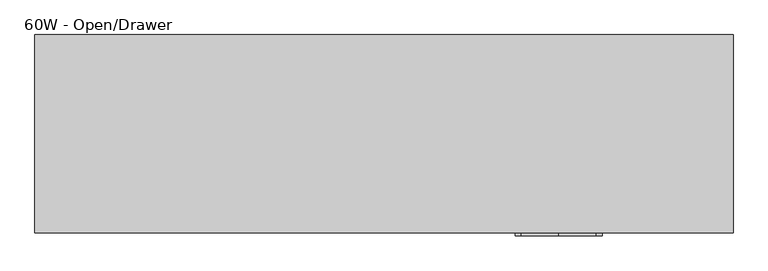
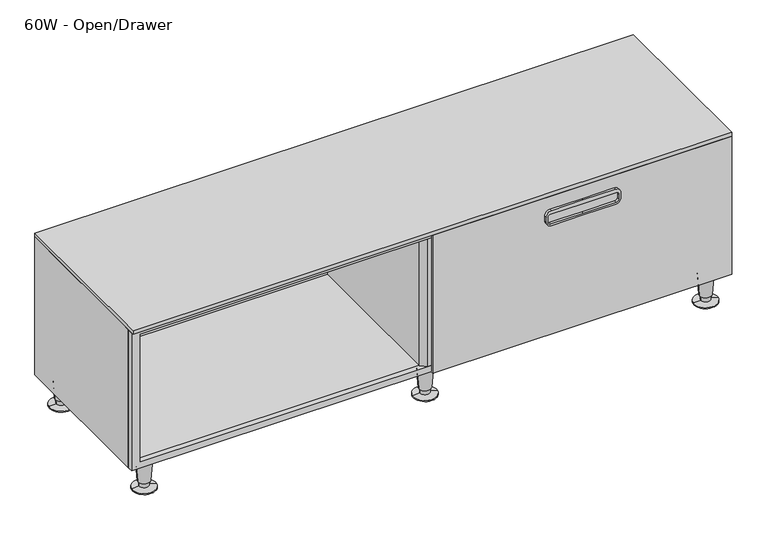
"""IFC4 building model written with IfcOpenShell, lengths in millimetres: furniture geometry, Steelcase - C Scape - Low Storage - 1 High - 60W and 72W : 60W - Open/Drawer."""

import ifcopenshell
import ifcopenshell.guid

model = None  # the IFC model being written
_history = None  # IfcOwnerHistory: only IFC2X3 demands one
_inside = {}  # id of a spatial element -> (the spatial element, [elements in it])
_under = {}  # id of a project, library or spatial element -> (it, [spatial elements below it])
_declared = {}  # id of a project -> (the project, [libraries it declares])
_typed = {}  # id of a type object -> (the type object, [elements of that type])
_made_of = {}  # id of a material, layer set ... -> (it, [elements and type objects made of it])


def new_model(schema):
    """Start an empty IFC model of exactly this schema.

    Asked for "IFC4X3", IfcOpenShell would pick the latest addendum, in which some entities
    have other attributes; the version numbers below select the first issue.
    IFC2X3 requires an IfcOwnerHistory on every rooted entity: one is made here for all.
    """
    global model, _history
    if schema == "IFC4X3":
        model = ifcopenshell.file(schema_version=(4, 3, 0, 0))
    else:
        model = ifcopenshell.file(schema=schema)
    _inside.clear()
    _under.clear()
    _declared.clear()
    _typed.clear()
    _made_of.clear()
    _history = None
    if model.schema == "IFC2X3":
        org = make("IfcOrganization", Name="unknown")
        user = make(
            "IfcPersonAndOrganization",
            ThePerson=make("IfcPerson", FamilyName="unknown"),
            TheOrganization=org,
        )
        app = make(
            "IfcApplication",
            ApplicationDeveloper=org,
            Version="unknown",
            ApplicationFullName="unknown",
            ApplicationIdentifier="unknown",
        )
        _history = make(
            "IfcOwnerHistory",
            OwningUser=user,
            OwningApplication=app,
            ChangeAction="ADDED",
            CreationDate=0,
        )
    return model


def make(cls, **values):
    """One entity of the class cls with the attributes given. An attribute that is None is left unset."""
    return model.create_entity(
        cls, **{name: value for name, value in values.items() if value is not None}
    )


def rooted(cls, **values):
    """An entity with a GlobalId (a new one), such as an element, a storey or a relation."""
    return make(cls, GlobalId=ifcopenshell.guid.new(), OwnerHistory=_history, **values)


def si_unit(unit_type, name, prefix=None):
    """IfcSIUnit, for example si_unit("LENGTHUNIT", "METRE", prefix="MILLI")."""
    return make("IfcSIUnit", UnitType=unit_type, Prefix=prefix, Name=name)


def assignment(units):
    """IfcUnitAssignment: the units of a project."""
    return None if units is None else make("IfcUnitAssignment", Units=units)


def point(xyz):
    """IfcCartesianPoint."""
    return None if xyz is None else make("IfcCartesianPoint", Coordinates=xyz)


def direction(xyz):
    """IfcDirection."""
    return None if xyz is None else make("IfcDirection", DirectionRatios=xyz)


def frame(location, z_axis=None, x_axis=None):
    """IfcAxis2Placement3D, a coordinate frame: its origin and axes. An axis left out is left unset."""
    return make(
        "IfcAxis2Placement3D",
        Location=point(location),
        Axis=direction(z_axis),
        RefDirection=direction(x_axis),
    )


def frame_2d(location, x_axis=None):
    """IfcAxis2Placement2D, a coordinate frame in the plane: its origin and x axis."""
    return make(
        "IfcAxis2Placement2D", Location=point(location), RefDirection=direction(x_axis)
    )


def origin():
    """The frame at (0, 0, 0) with its axes left unset."""
    return frame((0.0, 0.0, 0.0))


def place(relative_to, where):
    """IfcLocalPlacement: puts the frame where relative to a parent placement (None: the world)."""
    return make(
        "IfcLocalPlacement", PlacementRelTo=relative_to, RelativePlacement=where
    )


def context(
    kind, dimensions, precision=None, world=None, true_north=None, identifier=None
):
    """IfcGeometricRepresentationContext, for example the 3D "Model" context."""
    return make(
        "IfcGeometricRepresentationContext",
        ContextIdentifier=identifier,
        ContextType=kind,
        CoordinateSpaceDimension=dimensions,
        Precision=precision,
        WorldCoordinateSystem=world,
        TrueNorth=true_north,
    )


def project(units=None, contexts=None):
    """IfcProject with its units and contexts."""
    return rooted(
        "IfcProject",
        Name="project",
        RepresentationContexts=contexts,
        UnitsInContext=assignment(units),
    )


def spatial(cls, under=None, at=None, **own):
    """A site, building, storey or space (cls), placed at a placement, below another one or the project."""
    s = rooted(cls, ObjectPlacement=at, **own)
    if under is not None:
        _under.setdefault(under.id(), (under, []))[1].append(s)
    return s


def polyline(points):
    """IfcPolyline through the points."""
    return make("IfcPolyline", Points=[point(p) for p in points])


def circle_curve(where, radius):
    """IfcCircle in the frame where."""
    return make("IfcCircle", Position=where, Radius=radius)


def trimmed(basis, trim1, trim2, sense, master):
    """IfcTrimmedCurve: the piece of a basis curve between two trims."""
    return make(
        "IfcTrimmedCurve",
        BasisCurve=basis,
        Trim1=trim1,
        Trim2=trim2,
        SenseAgreement=sense,
        MasterRepresentation=master,
    )


def segment(curve, same_sense, transition):
    """IfcCompositeCurveSegment."""
    return make(
        "IfcCompositeCurveSegment",
        Transition=transition,
        SameSense=same_sense,
        ParentCurve=curve,
    )


def composite_curve(segments, self_intersect=None):
    """IfcCompositeCurve: segments joined end to end."""
    return make("IfcCompositeCurve", Segments=segments, SelfIntersect=self_intersect)


def outline(outer, holes=None, kind="AREA"):
    """IfcArbitraryClosedProfileDef: a profile drawn as a closed curve; with holes, ...WithVoids."""
    if holes is None:
        return make("IfcArbitraryClosedProfileDef", ProfileType=kind, OuterCurve=outer)
    return make(
        "IfcArbitraryProfileDefWithVoids",
        ProfileType=kind,
        OuterCurve=outer,
        InnerCurves=holes,
    )


def extrude(swept, where, along, depth):
    """IfcExtrudedAreaSolid: the profile swept, set in the frame where, extruded along a direction by depth."""
    return make(
        "IfcExtrudedAreaSolid",
        SweptArea=swept,
        Position=where,
        ExtrudedDirection=direction(along),
        Depth=depth,
    )


def faces_of(points, faces, orient=None, outer=None):
    """IfcFace entities. A face is a list of loops; a loop is a list of indices into points, from 0.

    orient and outer hold one flag for each loop. By default every Orientation is true, the
    first loop of a face is its IfcFaceOuterBound and the others are IfcFaceBound.
    """
    made = []
    for i, loops in enumerate(faces):
        bounds = []
        for j, loop in enumerate(loops):
            is_outer = j == 0 if outer is None else outer[i][j]
            bounds.append(
                make(
                    "IfcFaceOuterBound" if is_outer else "IfcFaceBound",
                    Bound=make("IfcPolyLoop", Polygon=[points[k] for k in loop]),
                    Orientation=True if orient is None else orient[i][j],
                )
            )
        made.append(make("IfcFace", Bounds=bounds))
    return made


def faceted_brep(points, faces, orient=None, outer=None, voids=None):
    """IfcFacetedBrep: a solid bounded by flat faces; with voids (closed shells), ...WithVoids."""
    shared = [point(p) for p in points]
    hull = make("IfcClosedShell", CfsFaces=faces_of(shared, faces, orient, outer))
    if voids is None:
        return make("IfcFacetedBrep", Outer=hull)
    return make(
        "IfcFacetedBrepWithVoids",
        Outer=hull,
        Voids=[
            make(cls, CfsFaces=faces_of(shared, fs, o, b)) for cls, fs, o, b in voids
        ],
    )


def shape(context_of_items, identifier, shape_type, items):
    """IfcShapeRepresentation: the items that make up one representation, for example the "Body"."""
    return make(
        "IfcShapeRepresentation",
        ContextOfItems=context_of_items,
        RepresentationIdentifier=identifier,
        RepresentationType=shape_type,
        Items=items,
    )


def source(mapping_origin, context_of_items, identifier, shape_type, items):
    """IfcRepresentationMap: a shape defined once, which mapped items show again and again."""
    return make(
        "IfcRepresentationMap",
        MappingOrigin=mapping_origin,
        MappedRepresentation=shape(context_of_items, identifier, shape_type, items),
    )


def transform(
    local_origin,
    x_axis=None,
    y_axis=None,
    z_axis=None,
    scale=None,
    scale2=None,
    scale3=None,
    uniform=True,
):
    """IfcCartesianTransformationOperator3D, or its non-uniform kind. x_axis, y_axis, z_axis: its Axis1, 2, 3."""
    if uniform:
        return make(
            "IfcCartesianTransformationOperator3D",
            Axis1=direction(x_axis),
            Axis2=direction(y_axis),
            LocalOrigin=point(local_origin),
            Scale=scale,
            Axis3=direction(z_axis),
        )
    return make(
        "IfcCartesianTransformationOperator3DnonUniform",
        Axis1=direction(x_axis),
        Axis2=direction(y_axis),
        LocalOrigin=point(local_origin),
        Scale=scale,
        Axis3=direction(z_axis),
        Scale2=scale2,
        Scale3=scale3,
    )


def mapped(mapping_source, mapping_target):
    """IfcMappedItem: shows the shape of a source again, moved by a transform."""
    return make(
        "IfcMappedItem", MappingSource=mapping_source, MappingTarget=mapping_target
    )


def made_of(thing, what):
    """Note that an element or type object is made of a material, layer set ...; save() writes the relation."""
    if what is not None:
        _made_of.setdefault(what.id(), (what, []))[1].append(thing)
    return thing


def element(
    cls,
    number,
    at=None,
    inside=None,
    cuts=None,
    type_object=None,
    material=None,
    context=None,
    identifier="Body",
    shape_type=None,
    held_by="IfcProductDefinitionShape",
    body=None,
    shapes=None,
    **own,
):
    """One element of the class cls, such as IfcWall. Its Tag is "e" and its number.

    at: its placement. inside: the storey or other place that contains it. cuts: it is an
    opening in that element (IfcRelVoidsElement). A single representation is given by context,
    identifier, shape_type and body (its items); several are given by shapes. held_by: the class
    of the entity that holds the representations. save() writes the other relations.
    """
    e = rooted(cls, Tag="e%d" % number, ObjectPlacement=at, **own)
    if body is not None:
        shapes = [shape(context, identifier, shape_type, body)]
    if shapes is not None:
        e.Representation = make(held_by, Representations=shapes)
    if inside is not None:
        _inside.setdefault(inside.id(), (inside, []))[1].append(e)
    if cuts is not None:
        rooted(
            "IfcRelVoidsElement", RelatingBuildingElement=cuts, RelatedOpeningElement=e
        )
    if type_object is not None:
        _typed.setdefault(type_object.id(), (type_object, []))[1].append(e)
    return made_of(e, material)


def aggregate(whole, parts):
    """IfcRelAggregates: a whole, such as a stair, and the parts it consists of."""
    return rooted("IfcRelAggregates", RelatingObject=whole, RelatedObjects=parts)


def save(model, path):
    """Write the relations noted so far, then the file.

    IfcRelAggregates (storeys below a building ...), IfcRelContainedInSpatialStructure (elements
    in a storey), IfcRelDefinesByType, IfcRelAssociatesMaterial and IfcRelDeclares: one each for
    every whole, place, type object, material and project.
    """
    for whole, parts in _under.values():
        aggregate(whole, parts)
    for where, things in _inside.values():
        rooted(
            "IfcRelContainedInSpatialStructure",
            RelatedElements=things,
            RelatingStructure=where,
        )
    for kind, things in _typed.values():
        rooted("IfcRelDefinesByType", RelatedObjects=things, RelatingType=kind)
    for what, things in _made_of.values():
        rooted("IfcRelAssociatesMaterial", RelatedObjects=things, RelatingMaterial=what)
    for by, libraries in _declared.values():
        rooted("IfcRelDeclares", RelatingContext=by, RelatedDefinitions=libraries)
    model.write(path)


def plane_surface(at):
    """IfcPlane: the flat surface through the origin of the frame at, square to its z axis."""
    return make("IfcPlane", Position=at)


def cylinder_surface(at, radius):
    """IfcCylindricalSurface: all points at the distance radius from the z axis of the frame at."""
    return make("IfcCylindricalSurface", Position=at, Radius=radius)


def revolved_surface(curve, axis_point, axis_direction):
    """IfcSurfaceOfRevolution: the curve turned about the line through axis_point along axis_direction."""
    return make(
        "IfcSurfaceOfRevolution",
        SweptCurve=make("IfcArbitraryOpenProfileDef", ProfileType="CURVE", Curve=curve),
        AxisPosition=make("IfcAxis1Placement", Location=point(axis_point), Axis=direction(axis_direction)),
    )


def advanced_brep(points, edges, surfaces, faces):
    """IfcAdvancedBrep: a solid bounded by faces that lie on surfaces and meet in shared edges.

    An edge is (start, end): straight between two places in points (the first is 0);
    or (start, end, curve); or (start, end, curve, False) where it runs against its curve.
    A face is (place in surfaces, loops), or (place, loops, False) where it looks against
    its surface's normal. A loop lists edges by number (the first is 1), with a minus sign
    where the edge is run from its end to its start. The first loop is the outer one.
    """
    corners = [point(p) for p in points]
    vertices = [make("IfcVertexPoint", VertexGeometry=c) for c in corners]
    made = []
    for start, end, *more in edges:
        made.append(
            make(
                "IfcEdgeCurve",
                EdgeStart=vertices[start],
                EdgeEnd=vertices[end],
                EdgeGeometry=more[0] if more else make("IfcPolyline", Points=[corners[start], corners[end]]),
                SameSense=more[1] if len(more) > 1 else True,
            )
        )
    hull = []
    for where, loops, *sense in faces:
        bounds = []
        for j, loop in enumerate(loops):
            ring = [make("IfcOrientedEdge", EdgeElement=made[abs(k) - 1], Orientation=k > 0) for k in loop]
            bounds.append(
                make(
                    "IfcFaceOuterBound" if j == 0 else "IfcFaceBound",
                    Bound=make("IfcEdgeLoop", EdgeList=ring),
                    Orientation=True,
                )
            )
        hull.append(make("IfcAdvancedFace", Bounds=bounds, FaceSurface=surfaces[where], SameSense=sense[0] if sense else True))
    return make("IfcAdvancedBrep", Outer=make("IfcClosedShell", CfsFaces=hull))


def furniture_60w_open_drawer_e08ea611(model_context):
    return source(origin(), model_context, "Body", "SolidModel", [
        extrude(outline(polyline([(447.0400097, 1217.93), (447.0400097, -305.435), (76.2, -305.435), (76.2, 1217.93), (447.0400097, 1217.93)]), holes=[polyline([(436.118, 1196.5917676), (92.7100024, 1196.5917676), (92.7100024, -283.4630912), (436.118, -283.4630912), (436.118, 1196.5917676)])]), frame((0.0, -426.7186111, 0.0), z_axis=(0.0, 1.0, 0.0), x_axis=(0.0, 0.0, 1.0)), (0.0, 0.0, 1.0), 14.3975487),
        faceted_brep([(-283.4630912, -412.3210624, 92.7100024), (434.0224874, -412.3210624, 92.7100024), (434.0224874, -9.525, 92.7100024), (-283.4630912, -9.525, 92.7100024), (479.1075126, -412.3210624, 92.7100024), (1196.5917676, -412.3210624, 92.7100024), (1196.5917676, -9.525, 92.7100024), (479.1075126, -9.525, 92.7100024), (-305.435, 0.0, 76.2), (1218.565, 0.0, 76.2), (1218.565, -412.3210624, 76.2), (-305.435, -412.3210624, 76.2), (-305.435, -412.3210624, 447.0400097), (-305.435, 0.0, 447.0400097), (1218.565, -412.3210624, 447.0400097), (1196.5917676, -412.3210624, 447.0400097), (-283.4630912, -412.3210624, 447.0400097), (1218.565, 0.0, 447.0400097), (-283.4630912, -9.525, 447.0400097), (434.0224874, -9.525, 447.0400097), (434.0224874, -415.2912402, 447.0400097), (447.6410976, -426.7186111, 447.0400097), (465.4889024, -426.7186111, 447.0400097), (479.1075126, -415.2912402, 447.0400097), (479.1075126, -9.525, 447.0400097), (1196.5917676, -9.525, 447.0400097), (434.0224874, -415.2912402, 92.7100024), (447.6410976, -426.7186111, 92.7100024), (465.4889024, -426.7186111, 92.7100024), (479.1075126, -415.2912402, 92.7100024)], [[[0, 1, 2, 3]], [[4, 5, 6, 7]], [[8, 9, 10, 11]], [[8, 11, 12, 13]], [[12, 11, 10, 14, 15, 5, 4, 1, 0, 16]], [[14, 10, 9, 17]], [[17, 9, 8, 13]], [[13, 12, 16, 18, 19, 20, 21, 22, 23, 24, 25, 15, 14, 17]], [[18, 16, 0, 3]], [[19, 18, 3, 2]], [[20, 19, 2, 1, 26]], [[21, 20, 26, 27]], [[23, 22, 28, 29]], [[24, 23, 29, 4, 7]], [[25, 24, 7, 6]], [[15, 25, 6, 5]], [[29, 28, 27, 26, 1, 4]], [[22, 21, 27, 28]]]),
        advanced_brep(
        [(427.4539515, -29.9489775, 0.0), (485.6760485, -38.8569507, 0.0), (456.565, -34.4029641, 0.0), (427.4539515, -29.9489775, 2.5119506), (485.6760485, -38.8569507, 2.5119506), (444.802835, -32.6033544, 5.7545598), (468.327165, -36.2025738, 5.7545598), (444.1140655, -32.4979728, 19.05), (469.0159345, -36.3079555, 19.05), (441.6844786, -32.1262463, 19.05), (471.4455214, -36.6796819, 19.05), (437.7341305, -31.5218435, 76.2), (475.3958695, -37.2840847, 76.2), (456.565, -34.4029641, 76.2)],
        [
            (0, 1, circle_curve(frame((456.565, -34.4029641, 0.0), z_axis=(0.0, 0.0, -1.0), x_axis=(0.0, -1.0, 0.0)), 29.4498071)),
            (1, 2),
            (2, 0),
            (1, 0, circle_curve(frame((456.565, -34.4029641, 0.0), z_axis=(0.0, 0.0, -1.0), x_axis=(0.0, -1.0, 0.0)), 29.4498071)),
            (3, 4, circle_curve(frame((456.565, -34.4029641, 2.5119506), z_axis=(0.0, 0.0, -1.0), x_axis=(0.0, -1.0, 0.0)), 29.4498071)),
            (4, 1),
            (0, 3),
            (4, 3, circle_curve(frame((456.565, -34.4029641, 2.5119506), z_axis=(0.0, 0.0, -1.0), x_axis=(0.0, -1.0, 0.0)), 29.4498071)),
            (5, 6, circle_curve(frame((456.565, -34.4029641, 5.7545598), z_axis=(0.0, 0.0, -1.0), x_axis=(0.0, -1.0, 0.0)), 11.8990387)),
            (6, 4),
            (3, 5),
            (6, 5, circle_curve(frame((456.565, -34.4029641, 5.7545598), z_axis=(0.0, 0.0, -1.0), x_axis=(0.0, -1.0, 0.0)), 11.8990387)),
            (7, 8, circle_curve(frame((456.565, -34.4029641, 19.05), z_axis=(0.0, 0.0, -1.0), x_axis=(0.0, -1.0, 0.0)), 12.5958232)),
            (8, 6),
            (5, 7),
            (8, 7, circle_curve(frame((456.565, -34.4029641, 19.05), z_axis=(0.0, 0.0, -1.0), x_axis=(0.0, -1.0, 0.0)), 12.5958232)),
            (9, 10, circle_curve(frame((456.565, -34.4029641, 19.05), z_axis=(0.0, 0.0, -1.0), x_axis=(0.0, -1.0, 0.0)), 15.0536827)),
            (10, 8),
            (7, 9),
            (10, 9, circle_curve(frame((456.565, -34.4029641, 19.05), z_axis=(0.0, 0.0, -1.0), x_axis=(0.0, -1.0, 0.0)), 15.0536827)),
            (11, 12, circle_curve(frame((456.565, -34.4029641, 76.2), z_axis=(0.0, 0.0, -1.0), x_axis=(0.0, -1.0, 0.0)), 19.05)),
            (12, 10),
            (9, 11),
            (12, 11, circle_curve(frame((456.565, -34.4029641, 76.2), z_axis=(0.0, 0.0, -1.0), x_axis=(0.0, -1.0, 0.0)), 19.05)),
            (13, 12),
            (11, 13),
        ],
        [
            plane_surface(frame((456.565, -34.4029641, 0.0), z_axis=(0.0, 0.0, -1.0), x_axis=(0.0, -1.0, 0.0))),
            cylinder_surface(frame((456.565, -34.4029641, 25.4), z_axis=(0.0, 0.0, 1.0), x_axis=(0.0, -1.0, 0.0)), 29.4498071),
            revolved_surface(polyline([(456.565, -63.8527712, 2.5119506), (456.565, -46.3020028, 5.7545598)]), (456.565, -34.4029641, 25.4), (0.0, 0.0, 1.0)),
            revolved_surface(polyline([(456.565, -46.3020028, 5.7545598), (456.565, -46.9987873, 19.05)]), (456.565, -34.4029641, 25.4), (0.0, 0.0, 1.0)),
            plane_surface(frame((456.565, -34.4029641, 19.05), z_axis=(0.0, 0.0, -1.0), x_axis=(0.0, -1.0, 0.0))),
            revolved_surface(polyline([(456.565, -49.4566468, 19.05), (456.565, -53.4529641, 76.2)]), (456.565, -34.4029641, 25.4), (0.0, 0.0, 1.0)),
            plane_surface(frame((456.565, -34.4029641, 76.2), z_axis=(0.0, 0.0, 1.0), x_axis=(0.0, -1.0, 0.0))),
        ],
        [
            (0, [[1, 2, 3]]),
            (0, [[4, -3, -2]]),
            (1, [[5, 6, -1, 7]]),
            (1, [[8, -7, -4, -6]]),
            (2, [[9, 10, -5, 11]]),
            (2, [[12, -11, -8, -10]]),
            (3, [[13, 14, -9, 15]]),
            (3, [[16, -15, -12, -14]]),
            (4, [[17, 18, -13, 19]]),
            (4, [[20, -19, -16, -18]]),
            (5, [[21, 22, -17, 23]]),
            (5, [[24, -23, -20, -22]]),
            (6, [[25, -21, 26]]),
            (6, [[-26, -24, -25]]),
        ],
    ),
        advanced_brep(
        [(427.4539515, -395.5974102, 0.0), (485.6760485, -404.5053834, 0.0), (456.565, -400.0513968, 0.0), (427.4539515, -395.5974102, 2.5119506), (485.6760485, -404.5053834, 2.5119506), (444.802835, -398.2517871, 5.7545598), (468.327165, -401.8510065, 5.7545598), (444.1140655, -398.1464055, 19.05), (469.0159345, -401.9563882, 19.05), (441.6844786, -397.774679, 19.05), (471.4455214, -402.3281146, 19.05), (437.7341305, -397.1702762, 76.2), (475.3958695, -402.9325174, 76.2), (456.565, -400.0513968, 76.2)],
        [
            (0, 1, circle_curve(frame((456.565, -400.0513968, 0.0), z_axis=(0.0, 0.0, -1.0), x_axis=(0.0, -1.0, 0.0)), 29.4498071)),
            (1, 2),
            (2, 0),
            (1, 0, circle_curve(frame((456.565, -400.0513968, 0.0), z_axis=(0.0, 0.0, -1.0), x_axis=(0.0, -1.0, 0.0)), 29.4498071)),
            (3, 4, circle_curve(frame((456.565, -400.0513968, 2.5119506), z_axis=(0.0, 0.0, -1.0), x_axis=(0.0, -1.0, 0.0)), 29.4498071)),
            (4, 1),
            (0, 3),
            (4, 3, circle_curve(frame((456.565, -400.0513968, 2.5119506), z_axis=(0.0, 0.0, -1.0), x_axis=(0.0, -1.0, 0.0)), 29.4498071)),
            (5, 6, circle_curve(frame((456.565, -400.0513968, 5.7545598), z_axis=(0.0, 0.0, -1.0), x_axis=(0.0, -1.0, 0.0)), 11.8990387)),
            (6, 4),
            (3, 5),
            (6, 5, circle_curve(frame((456.565, -400.0513968, 5.7545598), z_axis=(0.0, 0.0, -1.0), x_axis=(0.0, -1.0, 0.0)), 11.8990387)),
            (7, 8, circle_curve(frame((456.565, -400.0513968, 19.05), z_axis=(0.0, 0.0, -1.0), x_axis=(0.0, -1.0, 0.0)), 12.5958232)),
            (8, 6),
            (5, 7),
            (8, 7, circle_curve(frame((456.565, -400.0513968, 19.05), z_axis=(0.0, 0.0, -1.0), x_axis=(0.0, -1.0, 0.0)), 12.5958232)),
            (9, 10, circle_curve(frame((456.565, -400.0513968, 19.05), z_axis=(0.0, 0.0, -1.0), x_axis=(0.0, -1.0, 0.0)), 15.0536827)),
            (10, 8),
            (7, 9),
            (10, 9, circle_curve(frame((456.565, -400.0513968, 19.05), z_axis=(0.0, 0.0, -1.0), x_axis=(0.0, -1.0, 0.0)), 15.0536827)),
            (11, 12, circle_curve(frame((456.565, -400.0513968, 76.2), z_axis=(0.0, 0.0, -1.0), x_axis=(0.0, -1.0, 0.0)), 19.05)),
            (12, 10),
            (9, 11),
            (12, 11, circle_curve(frame((456.565, -400.0513968, 76.2), z_axis=(0.0, 0.0, -1.0), x_axis=(0.0, -1.0, 0.0)), 19.05)),
            (13, 12),
            (11, 13),
        ],
        [
            plane_surface(frame((456.565, -400.0513968, 0.0), z_axis=(0.0, 0.0, -1.0), x_axis=(0.0, -1.0, 0.0))),
            cylinder_surface(frame((456.565, -400.0513968, 25.4), z_axis=(0.0, 0.0, 1.0), x_axis=(0.0, -1.0, 0.0)), 29.4498071),
            revolved_surface(polyline([(456.565, -429.5012039, 2.5119506), (456.565, -411.9504355, 5.7545598)]), (456.565, -400.0513968, 25.4), (0.0, 0.0, 1.0)),
            revolved_surface(polyline([(456.565, -411.9504355, 5.7545598), (456.565, -412.64722, 19.05)]), (456.565, -400.0513968, 25.4), (0.0, 0.0, 1.0)),
            plane_surface(frame((456.565, -400.0513968, 19.05), z_axis=(0.0, 0.0, -1.0), x_axis=(0.0, -1.0, 0.0))),
            revolved_surface(polyline([(456.565, -415.1050795, 19.05), (456.565, -419.1013968, 76.2)]), (456.565, -400.0513968, 25.4), (0.0, 0.0, 1.0)),
            plane_surface(frame((456.565, -400.0513968, 76.2), z_axis=(0.0, 0.0, 1.0), x_axis=(0.0, -1.0, 0.0))),
        ],
        [
            (0, [[1, 2, 3]]),
            (0, [[4, -3, -2]]),
            (1, [[5, 6, -1, 7]]),
            (1, [[8, -7, -4, -6]]),
            (2, [[9, 10, -5, 11]]),
            (2, [[12, -11, -8, -10]]),
            (3, [[13, 14, -9, 15]]),
            (3, [[16, -15, -12, -14]]),
            (4, [[17, 18, -13, 19]]),
            (4, [[20, -19, -16, -18]]),
            (5, [[21, 22, -17, 23]]),
            (5, [[24, -23, -20, -22]]),
            (6, [[25, -21, 26]]),
            (6, [[-26, -24, -25]]),
        ],
    ),
        extrude(outline(composite_curve([segment(trimmed(circle_curve(frame_2d((400.0499879, 755.3320892)), 12.7), [point((412.7499879, 755.3320892))], [point((400.0499879, 742.6320892))], False, "CARTESIAN"), True, "CONTINUOUS"), segment(polyline([(400.0499879, 742.6320892), (385.445017, 742.6320892)]), True, "CONTINUOUS"), segment(trimmed(circle_curve(frame_2d((385.445017, 755.3320892)), 12.7), [point((385.445017, 742.6320892))], [point((372.745017, 755.3320892))], False, "CARTESIAN"), True, "CONTINUOUS"), segment(polyline([(372.745017, 755.3320892), (372.745017, 837.564845), (372.745017, 919.7976007)]), True, "CONTINUOUS"), segment(trimmed(circle_curve(frame_2d((385.445017, 919.7976007)), 12.7), [point((372.745017, 919.7976007))], [point((385.445017, 932.4976007))], False, "CARTESIAN"), True, "CONTINUOUS"), segment(polyline([(385.445017, 932.4976007), (400.0499879, 932.4976007)]), True, "CONTINUOUS"), segment(trimmed(circle_curve(frame_2d((400.0499879, 919.7976007)), 12.7), [point((400.0499879, 932.4976007))], [point((412.7499879, 919.7976007))], False, "CARTESIAN"), True, "CONTINUOUS"), segment(polyline([(412.7499879, 919.7976007), (412.7499879, 837.564845), (412.7499879, 755.3320892)]), True, "CONTINUOUS")], self_intersect=False), holes=[composite_curve([segment(trimmed(circle_curve(frame_2d((396.6210063, 753.8097015)), 6.35), [point((396.6210063, 747.4597015))], [point((402.9710063, 753.8097015))], True, "CARTESIAN"), True, "CONTINUOUS"), segment(polyline([(402.9710063, 753.8097015), (402.9710063, 837.564845), (402.9710063, 921.3199884)]), True, "CONTINUOUS"), segment(trimmed(circle_curve(frame_2d((396.6210063, 921.3199884)), 6.35), [point((402.9710063, 921.3199884))], [point((396.6210063, 927.6699884))], True, "CARTESIAN"), True, "CONTINUOUS"), segment(polyline([(396.6210063, 927.6699884), (383.9209942, 927.6699884)]), True, "CONTINUOUS"), segment(trimmed(circle_curve(frame_2d((383.9209942, 921.3199884)), 6.35), [point((383.9209942, 927.6699884))], [point((377.5709942, 921.3199884))], True, "CARTESIAN"), True, "CONTINUOUS"), segment(polyline([(377.5709942, 921.3199884), (377.5709942, 837.564845), (377.5709942, 753.8097015)]), True, "CONTINUOUS"), segment(trimmed(circle_curve(frame_2d((383.9209942, 753.8097015)), 6.35), [point((377.5709942, 753.8097015))], [point((383.9209942, 747.4597015))], True, "CARTESIAN"), True, "CONTINUOUS"), segment(polyline([(383.9209942, 747.4597015), (396.6210063, 747.4597015)]), True, "CONTINUOUS")], self_intersect=False)]), frame((0.0, -439.42, 0.0), z_axis=(0.0, 1.0, 0.0), x_axis=(0.0, 0.0, 1.0)), (0.0, 0.0, 1.0), 6.35),
        advanced_brep(
        [(1171.2185874, -34.4029641, 76.2), (1190.0494568, -37.2840847, 76.2), (1152.3877179, -31.5218435, 76.2), (1186.0991088, -36.6796819, 19.05), (1156.3380659, -32.1262463, 19.05), (1183.6695219, -36.3079555, 19.05), (1158.7676529, -32.4979728, 19.05), (1182.9807524, -36.2025738, 5.7545598), (1159.4564224, -32.6033544, 5.7545598), (1200.3296359, -38.8569507, 2.5119506), (1142.1075389, -29.9489775, 2.5119506), (1200.3296359, -38.8569507, 0.0), (1142.1075389, -29.9489775, 0.0), (1171.2185874, -34.4029641, 0.0)],
        [
            (0, 1),
            (1, 2, circle_curve(frame((1171.2185874, -34.4029641, 76.2), z_axis=(0.0, 0.0, 1.0), x_axis=(0.0, -1.0, 0.0)), 19.05)),
            (2, 0),
            (2, 1, circle_curve(frame((1171.2185874, -34.4029641, 76.2), z_axis=(0.0, 0.0, 1.0), x_axis=(0.0, -1.0, 0.0)), 19.05)),
            (1, 3),
            (3, 4, circle_curve(frame((1171.2185874, -34.4029641, 19.05), z_axis=(0.0, 0.0, 1.0), x_axis=(0.0, -1.0, 0.0)), 15.0536827)),
            (4, 2),
            (4, 3, circle_curve(frame((1171.2185874, -34.4029641, 19.05), z_axis=(0.0, 0.0, 1.0), x_axis=(0.0, -1.0, 0.0)), 15.0536827)),
            (3, 5),
            (5, 6, circle_curve(frame((1171.2185874, -34.4029641, 19.05), z_axis=(0.0, 0.0, 1.0), x_axis=(0.0, -1.0, 0.0)), 12.5958232)),
            (6, 4),
            (6, 5, circle_curve(frame((1171.2185874, -34.4029641, 19.05), z_axis=(0.0, 0.0, 1.0), x_axis=(0.0, -1.0, 0.0)), 12.5958232)),
            (5, 7),
            (7, 8, circle_curve(frame((1171.2185874, -34.4029641, 5.7545598), z_axis=(0.0, 0.0, 1.0), x_axis=(0.0, -1.0, 0.0)), 11.8990387)),
            (8, 6),
            (8, 7, circle_curve(frame((1171.2185874, -34.4029641, 5.7545598), z_axis=(0.0, 0.0, 1.0), x_axis=(0.0, -1.0, 0.0)), 11.8990387)),
            (7, 9),
            (9, 10, circle_curve(frame((1171.2185874, -34.4029641, 2.5119506), z_axis=(0.0, 0.0, 1.0), x_axis=(0.0, -1.0, 0.0)), 29.4498071)),
            (10, 8),
            (10, 9, circle_curve(frame((1171.2185874, -34.4029641, 2.5119506), z_axis=(0.0, 0.0, 1.0), x_axis=(0.0, -1.0, 0.0)), 29.4498071)),
            (9, 11),
            (11, 12, circle_curve(frame((1171.2185874, -34.4029641, 0.0), z_axis=(0.0, 0.0, 1.0), x_axis=(0.0, -1.0, 0.0)), 29.4498071)),
            (12, 10),
            (12, 11, circle_curve(frame((1171.2185874, -34.4029641, 0.0), z_axis=(0.0, 0.0, 1.0), x_axis=(0.0, -1.0, 0.0)), 29.4498071)),
            (11, 13),
            (13, 12),
        ],
        [
            plane_surface(frame((1171.2185874, -34.4029641, 76.2), z_axis=(0.0, 0.0, 1.0), x_axis=(0.0, -1.0, 0.0))),
            revolved_surface(polyline([(1171.2185874, -49.4566468, 19.05), (1171.2185874, -53.4529641, 76.2)]), (1171.2185874, -34.4029641, 25.4), (0.0, 0.0, 1.0)),
            plane_surface(frame((1171.2185874, -34.4029641, 19.05), z_axis=(0.0, 0.0, -1.0), x_axis=(0.0, -1.0, 0.0))),
            revolved_surface(polyline([(1171.2185874, -46.3020028, 5.7545598), (1171.2185874, -46.9987873, 19.05)]), (1171.2185874, -34.4029641, 25.4), (0.0, 0.0, 1.0)),
            revolved_surface(polyline([(1171.2185874, -63.8527712, 2.5119506), (1171.2185874, -46.3020028, 5.7545598)]), (1171.2185874, -34.4029641, 25.4), (0.0, 0.0, 1.0)),
            cylinder_surface(frame((1171.2185874, -34.4029641, 25.4), z_axis=(0.0, 0.0, 1.0), x_axis=(0.0, -1.0, 0.0)), 29.4498071),
            plane_surface(frame((1171.2185874, -34.4029641, 0.0), z_axis=(0.0, 0.0, -1.0), x_axis=(0.0, -1.0, 0.0))),
        ],
        [
            (0, [[1, 2, 3]]),
            (0, [[-3, 4, -1]]),
            (1, [[-2, 5, 6, 7]]),
            (1, [[-4, -7, 8, -5]]),
            (2, [[-6, 9, 10, 11]]),
            (2, [[-8, -11, 12, -9]]),
            (3, [[-10, 13, 14, 15]]),
            (3, [[-12, -15, 16, -13]]),
            (4, [[-14, 17, 18, 19]]),
            (4, [[-16, -19, 20, -17]]),
            (5, [[-18, 21, 22, 23]]),
            (5, [[-20, -23, 24, -21]]),
            (6, [[-22, 25, 26]]),
            (6, [[-24, -26, -25]]),
        ],
    ),
        advanced_brep(
        [(1171.2185874, -400.0513968, 76.2), (1190.0494568, -402.9325174, 76.2), (1152.3877179, -397.1702762, 76.2), (1186.0991088, -402.3281146, 19.05), (1156.3380659, -397.774679, 19.05), (1183.6695219, -401.9563882, 19.05), (1158.7676529, -398.1464055, 19.05), (1182.9807524, -401.8510065, 5.7545598), (1159.4564224, -398.2517871, 5.7545598), (1200.3296359, -404.5053834, 2.5119506), (1142.1075389, -395.5974102, 2.5119506), (1200.3296359, -404.5053834, 0.0), (1142.1075389, -395.5974102, 0.0), (1171.2185874, -400.0513968, 0.0)],
        [
            (0, 1),
            (1, 2, circle_curve(frame((1171.2185874, -400.0513968, 76.2), z_axis=(0.0, 0.0, 1.0), x_axis=(0.0, -1.0, 0.0)), 19.05)),
            (2, 0),
            (2, 1, circle_curve(frame((1171.2185874, -400.0513968, 76.2), z_axis=(0.0, 0.0, 1.0), x_axis=(0.0, -1.0, 0.0)), 19.05)),
            (1, 3),
            (3, 4, circle_curve(frame((1171.2185874, -400.0513968, 19.05), z_axis=(0.0, 0.0, 1.0), x_axis=(0.0, -1.0, 0.0)), 15.0536827)),
            (4, 2),
            (4, 3, circle_curve(frame((1171.2185874, -400.0513968, 19.05), z_axis=(0.0, 0.0, 1.0), x_axis=(0.0, -1.0, 0.0)), 15.0536827)),
            (3, 5),
            (5, 6, circle_curve(frame((1171.2185874, -400.0513968, 19.05), z_axis=(0.0, 0.0, 1.0), x_axis=(0.0, -1.0, 0.0)), 12.5958232)),
            (6, 4),
            (6, 5, circle_curve(frame((1171.2185874, -400.0513968, 19.05), z_axis=(0.0, 0.0, 1.0), x_axis=(0.0, -1.0, 0.0)), 12.5958232)),
            (5, 7),
            (7, 8, circle_curve(frame((1171.2185874, -400.0513968, 5.7545598), z_axis=(0.0, 0.0, 1.0), x_axis=(0.0, -1.0, 0.0)), 11.8990387)),
            (8, 6),
            (8, 7, circle_curve(frame((1171.2185874, -400.0513968, 5.7545598), z_axis=(0.0, 0.0, 1.0), x_axis=(0.0, -1.0, 0.0)), 11.8990387)),
            (7, 9),
            (9, 10, circle_curve(frame((1171.2185874, -400.0513968, 2.5119506), z_axis=(0.0, 0.0, 1.0), x_axis=(0.0, -1.0, 0.0)), 29.4498071)),
            (10, 8),
            (10, 9, circle_curve(frame((1171.2185874, -400.0513968, 2.5119506), z_axis=(0.0, 0.0, 1.0), x_axis=(0.0, -1.0, 0.0)), 29.4498071)),
            (9, 11),
            (11, 12, circle_curve(frame((1171.2185874, -400.0513968, 0.0), z_axis=(0.0, 0.0, 1.0), x_axis=(0.0, -1.0, 0.0)), 29.4498071)),
            (12, 10),
            (12, 11, circle_curve(frame((1171.2185874, -400.0513968, 0.0), z_axis=(0.0, 0.0, 1.0), x_axis=(0.0, -1.0, 0.0)), 29.4498071)),
            (11, 13),
            (13, 12),
        ],
        [
            plane_surface(frame((1171.2185874, -400.0513968, 76.2), z_axis=(0.0, 0.0, 1.0), x_axis=(0.0, -1.0, 0.0))),
            revolved_surface(polyline([(1171.2185874, -415.1050795, 19.05), (1171.2185874, -419.1013968, 76.2)]), (1171.2185874, -400.0513968, 25.4), (0.0, 0.0, 1.0)),
            plane_surface(frame((1171.2185874, -400.0513968, 19.05), z_axis=(0.0, 0.0, -1.0), x_axis=(0.0, -1.0, 0.0))),
            revolved_surface(polyline([(1171.2185874, -411.9504355, 5.7545598), (1171.2185874, -412.64722, 19.05)]), (1171.2185874, -400.0513968, 25.4), (0.0, 0.0, 1.0)),
            revolved_surface(polyline([(1171.2185874, -429.5012039, 2.5119506), (1171.2185874, -411.9504355, 5.7545598)]), (1171.2185874, -400.0513968, 25.4), (0.0, 0.0, 1.0)),
            cylinder_surface(frame((1171.2185874, -400.0513968, 25.4), z_axis=(0.0, 0.0, 1.0), x_axis=(0.0, -1.0, 0.0)), 29.4498071),
            plane_surface(frame((1171.2185874, -400.0513968, 0.0), z_axis=(0.0, 0.0, -1.0), x_axis=(0.0, -1.0, 0.0))),
        ],
        [
            (0, [[1, 2, 3]]),
            (0, [[-3, 4, -1]]),
            (1, [[-2, 5, 6, 7]]),
            (1, [[-4, -7, 8, -5]]),
            (2, [[-6, 9, 10, 11]]),
            (2, [[-8, -11, 12, -9]]),
            (3, [[-10, 13, 14, 15]]),
            (3, [[-12, -15, 16, -13]]),
            (4, [[-14, 17, 18, 19]]),
            (4, [[-16, -19, 20, -17]]),
            (5, [[-18, 21, 22, 23]]),
            (5, [[-20, -23, 24, -21]]),
            (6, [[-22, 25, 26]]),
            (6, [[-24, -26, -25]]),
        ],
    ),
        advanced_brep(
        [(-287.8113721, -395.5974102, 0.0), (-229.5892752, -404.5053834, 0.0), (-258.7003237, -400.0513968, 0.0), (-287.8113721, -395.5974102, 2.5119506), (-229.5892752, -404.5053834, 2.5119506), (-270.4624887, -398.2517871, 5.7545598), (-246.9381586, -401.8510065, 5.7545598), (-271.1512581, -398.1464055, 19.05), (-246.2493892, -401.9563882, 19.05), (-273.5808451, -397.774679, 19.05), (-243.8198022, -402.3281146, 19.05), (-277.5311931, -397.1702762, 76.2), (-239.8694542, -402.9325174, 76.2), (-258.7003237, -400.0513968, 76.2)],
        [
            (0, 1, circle_curve(frame((-258.7003237, -400.0513968, 0.0), z_axis=(0.0, 0.0, -1.0), x_axis=(0.0, -1.0, 0.0)), 29.4498071)),
            (1, 2),
            (2, 0),
            (1, 0, circle_curve(frame((-258.7003237, -400.0513968, 0.0), z_axis=(0.0, 0.0, -1.0), x_axis=(0.0, -1.0, 0.0)), 29.4498071)),
            (3, 4, circle_curve(frame((-258.7003237, -400.0513968, 2.5119506), z_axis=(0.0, 0.0, -1.0), x_axis=(0.0, -1.0, 0.0)), 29.4498071)),
            (4, 1),
            (0, 3),
            (4, 3, circle_curve(frame((-258.7003237, -400.0513968, 2.5119506), z_axis=(0.0, 0.0, -1.0), x_axis=(0.0, -1.0, 0.0)), 29.4498071)),
            (5, 6, circle_curve(frame((-258.7003237, -400.0513968, 5.7545598), z_axis=(0.0, 0.0, -1.0), x_axis=(0.0, -1.0, 0.0)), 11.8990387)),
            (6, 4),
            (3, 5),
            (6, 5, circle_curve(frame((-258.7003237, -400.0513968, 5.7545598), z_axis=(0.0, 0.0, -1.0), x_axis=(0.0, -1.0, 0.0)), 11.8990387)),
            (7, 8, circle_curve(frame((-258.7003237, -400.0513968, 19.05), z_axis=(0.0, 0.0, -1.0), x_axis=(0.0, -1.0, 0.0)), 12.5958232)),
            (8, 6),
            (5, 7),
            (8, 7, circle_curve(frame((-258.7003237, -400.0513968, 19.05), z_axis=(0.0, 0.0, -1.0), x_axis=(0.0, -1.0, 0.0)), 12.5958232)),
            (9, 10, circle_curve(frame((-258.7003237, -400.0513968, 19.05), z_axis=(0.0, 0.0, -1.0), x_axis=(0.0, -1.0, 0.0)), 15.0536827)),
            (10, 8),
            (7, 9),
            (10, 9, circle_curve(frame((-258.7003237, -400.0513968, 19.05), z_axis=(0.0, 0.0, -1.0), x_axis=(0.0, -1.0, 0.0)), 15.0536827)),
            (11, 12, circle_curve(frame((-258.7003237, -400.0513968, 76.2), z_axis=(0.0, 0.0, -1.0), x_axis=(0.0, -1.0, 0.0)), 19.05)),
            (12, 10),
            (9, 11),
            (12, 11, circle_curve(frame((-258.7003237, -400.0513968, 76.2), z_axis=(0.0, 0.0, -1.0), x_axis=(0.0, -1.0, 0.0)), 19.05)),
            (13, 12),
            (11, 13),
        ],
        [
            plane_surface(frame((-258.7003237, -400.0513968, 0.0), z_axis=(0.0, 0.0, -1.0), x_axis=(0.0, -1.0, 0.0))),
            cylinder_surface(frame((-258.7003237, -400.0513968, 25.4), z_axis=(0.0, 0.0, 1.0), x_axis=(0.0, -1.0, 0.0)), 29.4498071),
            revolved_surface(polyline([(-258.7003237, -429.5012039, 2.5119506), (-258.7003237, -411.9504355, 5.7545598)]), (-258.7003237, -400.0513968, 25.4), (0.0, 0.0, 1.0)),
            revolved_surface(polyline([(-258.7003237, -411.9504355, 5.7545598), (-258.7003237, -412.64722, 19.05)]), (-258.7003237, -400.0513968, 25.4), (0.0, 0.0, 1.0)),
            plane_surface(frame((-258.7003237, -400.0513968, 19.05), z_axis=(0.0, 0.0, -1.0), x_axis=(0.0, -1.0, 0.0))),
            revolved_surface(polyline([(-258.7003237, -415.1050795, 19.05), (-258.7003237, -419.1013968, 76.2)]), (-258.7003237, -400.0513968, 25.4), (0.0, 0.0, 1.0)),
            plane_surface(frame((-258.7003237, -400.0513968, 76.2), z_axis=(0.0, 0.0, 1.0), x_axis=(0.0, -1.0, 0.0))),
        ],
        [
            (0, [[1, 2, 3]]),
            (0, [[4, -3, -2]]),
            (1, [[5, 6, -1, 7]]),
            (1, [[8, -7, -4, -6]]),
            (2, [[9, 10, -5, 11]]),
            (2, [[12, -11, -8, -10]]),
            (3, [[13, 14, -9, 15]]),
            (3, [[16, -15, -12, -14]]),
            (4, [[17, 18, -13, 19]]),
            (4, [[20, -19, -16, -18]]),
            (5, [[21, 22, -17, 23]]),
            (5, [[24, -23, -20, -22]]),
            (6, [[25, -21, 26]]),
            (6, [[-26, -24, -25]]),
        ],
    ),
        advanced_brep(
        [(-287.8113721, -29.9489775, 0.0), (-229.5892752, -38.8569507, 0.0), (-258.7003237, -34.4029641, 0.0), (-287.8113721, -29.9489775, 2.5119506), (-229.5892752, -38.8569507, 2.5119506), (-270.4624887, -32.6033544, 5.7545598), (-246.9381586, -36.2025738, 5.7545598), (-271.1512581, -32.4979728, 19.05), (-246.2493892, -36.3079555, 19.05), (-273.5808451, -32.1262463, 19.05), (-243.8198022, -36.6796819, 19.05), (-277.5311931, -31.5218435, 76.2), (-239.8694542, -37.2840847, 76.2), (-258.7003237, -34.4029641, 76.2)],
        [
            (0, 1, circle_curve(frame((-258.7003237, -34.4029641, 0.0), z_axis=(0.0, 0.0, -1.0), x_axis=(0.0, -1.0, 0.0)), 29.4498071)),
            (1, 2),
            (2, 0),
            (1, 0, circle_curve(frame((-258.7003237, -34.4029641, 0.0), z_axis=(0.0, 0.0, -1.0), x_axis=(0.0, -1.0, 0.0)), 29.4498071)),
            (3, 4, circle_curve(frame((-258.7003237, -34.4029641, 2.5119506), z_axis=(0.0, 0.0, -1.0), x_axis=(0.0, -1.0, 0.0)), 29.4498071)),
            (4, 1),
            (0, 3),
            (4, 3, circle_curve(frame((-258.7003237, -34.4029641, 2.5119506), z_axis=(0.0, 0.0, -1.0), x_axis=(0.0, -1.0, 0.0)), 29.4498071)),
            (5, 6, circle_curve(frame((-258.7003237, -34.4029641, 5.7545598), z_axis=(0.0, 0.0, -1.0), x_axis=(0.0, -1.0, 0.0)), 11.8990387)),
            (6, 4),
            (3, 5),
            (6, 5, circle_curve(frame((-258.7003237, -34.4029641, 5.7545598), z_axis=(0.0, 0.0, -1.0), x_axis=(0.0, -1.0, 0.0)), 11.8990387)),
            (7, 8, circle_curve(frame((-258.7003237, -34.4029641, 19.05), z_axis=(0.0, 0.0, -1.0), x_axis=(0.0, -1.0, 0.0)), 12.5958232)),
            (8, 6),
            (5, 7),
            (8, 7, circle_curve(frame((-258.7003237, -34.4029641, 19.05), z_axis=(0.0, 0.0, -1.0), x_axis=(0.0, -1.0, 0.0)), 12.5958232)),
            (9, 10, circle_curve(frame((-258.7003237, -34.4029641, 19.05), z_axis=(0.0, 0.0, -1.0), x_axis=(0.0, -1.0, 0.0)), 15.0536827)),
            (10, 8),
            (7, 9),
            (10, 9, circle_curve(frame((-258.7003237, -34.4029641, 19.05), z_axis=(0.0, 0.0, -1.0), x_axis=(0.0, -1.0, 0.0)), 15.0536827)),
            (11, 12, circle_curve(frame((-258.7003237, -34.4029641, 76.2), z_axis=(0.0, 0.0, -1.0), x_axis=(0.0, -1.0, 0.0)), 19.05)),
            (12, 10),
            (9, 11),
            (12, 11, circle_curve(frame((-258.7003237, -34.4029641, 76.2), z_axis=(0.0, 0.0, -1.0), x_axis=(0.0, -1.0, 0.0)), 19.05)),
            (13, 12),
            (11, 13),
        ],
        [
            plane_surface(frame((-258.7003237, -34.4029641, 0.0), z_axis=(0.0, 0.0, -1.0), x_axis=(0.0, -1.0, 0.0))),
            cylinder_surface(frame((-258.7003237, -34.4029641, 25.4), z_axis=(0.0, 0.0, 1.0), x_axis=(0.0, -1.0, 0.0)), 29.4498071),
            revolved_surface(polyline([(-258.7003237, -63.8527712, 2.5119506), (-258.7003237, -46.3020028, 5.7545598)]), (-258.7003237, -34.4029641, 25.4), (0.0, 0.0, 1.0)),
            revolved_surface(polyline([(-258.7003237, -46.3020028, 5.7545598), (-258.7003237, -46.9987873, 19.05)]), (-258.7003237, -34.4029641, 25.4), (0.0, 0.0, 1.0)),
            plane_surface(frame((-258.7003237, -34.4029641, 19.05), z_axis=(0.0, 0.0, -1.0), x_axis=(0.0, -1.0, 0.0))),
            revolved_surface(polyline([(-258.7003237, -49.4566468, 19.05), (-258.7003237, -53.4529641, 76.2)]), (-258.7003237, -34.4029641, 25.4), (0.0, 0.0, 1.0)),
            plane_surface(frame((-258.7003237, -34.4029641, 76.2), z_axis=(0.0, 0.0, 1.0), x_axis=(0.0, -1.0, 0.0))),
        ],
        [
            (0, [[1, 2, 3]]),
            (0, [[4, -3, -2]]),
            (1, [[5, 6, -1, 7]]),
            (1, [[8, -7, -4, -6]]),
            (2, [[9, 10, -5, 11]]),
            (2, [[12, -11, -8, -10]]),
            (3, [[13, 14, -9, 15]]),
            (3, [[16, -15, -12, -14]]),
            (4, [[17, 18, -13, 19]]),
            (4, [[20, -19, -16, -18]]),
            (5, [[21, 22, -17, 23]]),
            (5, [[24, -23, -20, -22]]),
            (6, [[25, -21, 26]]),
            (6, [[-26, -24, -25]]),
        ],
    ),
        extrude(outline(polyline([(457.1996899, -426.7186111), (1218.565, -426.7186111), (1218.565, -433.07), (457.1996899, -433.07), (457.1996899, -426.7186111)])), frame((0.0, 0.0, 76.2), z_axis=(0.0, 0.0, 1.0), x_axis=(1.0, 0.0, 0.0)), (0.0, 0.0, 1.0), 370.8400097),
        extrude(outline(polyline([(-305.435, 0.0), (1218.565, 0.0), (1218.565, -433.07), (-305.435, -433.07), (-305.435, 0.0)])), frame((0.0, 0.0, 447.0400097), z_axis=(0.0, 0.0, 1.0), x_axis=(1.0, 0.0, 0.0)), (0.0, 0.0, 1.0), 10.1599903),
    ])


if __name__ == "__main__":
    model = new_model("IFC4")
    model_context = context("Model", 3, world=origin())
    ifc_project = project(units=[si_unit("LENGTHUNIT", "METRE", prefix="MILLI")], contexts=[model_context])
    site = spatial("IfcSite", under=ifc_project)
    building = spatial("IfcBuilding", under=site)
    placement = place(None, origin())
    furniture_60w_open_drawer_shape = furniture_60w_open_drawer_e08ea611(model_context)
    element("IfcFurniture", 1, ObjectType="Steelcase - C Scape - Low Storage - 1 High - 60W and 72W : 60W - Open/Drawer", at=placement, inside=building, context=model_context, shape_type="MappedRepresentation", body=[
        mapped(furniture_60w_open_drawer_shape, transform((0.0, 0.0, 0.0), x_axis=(1.0, 0.0, 0.0), y_axis=(0.0, 1.0, 0.0), z_axis=(0.0, 0.0, 1.0))),
    ])
    save(model, "model.ifc")
